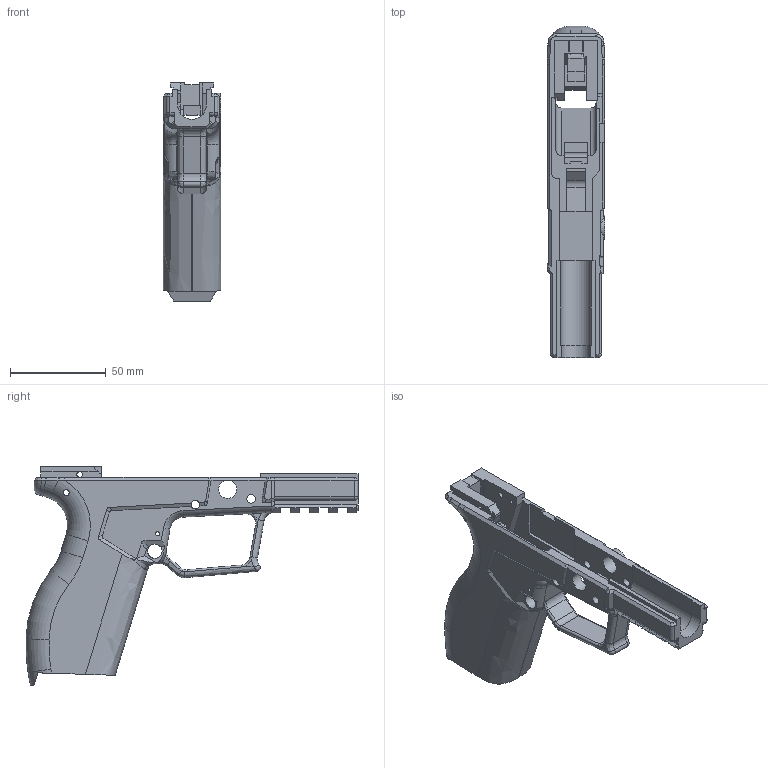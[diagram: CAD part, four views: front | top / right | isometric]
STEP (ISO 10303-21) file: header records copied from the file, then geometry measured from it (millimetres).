
FILE_DESCRIPTION(/* description */ (''),/* implementation_level */ '2;1');
FILE_NAME(/* name */ 'C:/AWCY/XD_Proj/XD_ServiceSize_RC031322.step',/* time_stamp */ '2022-03-13T19:20:34-04:00',/* author */ (''),/* organization */ (''),/* preprocessor_version */ 'ST-DEVELOPER v18.1',/* originating_system */ 'Autodesk Translation Framework v10.13.0.1454',/* authorisation */ '');
FILE_SCHEMA (('AUTOMOTIVE_DESIGN { 1 0 10303 214 3 1 1 }'));
Length unit declared in the file: millimetre
Products named in the file (1): XD_ServiceSize
Bounding box: 30.25 x 173.2 x 113.92 mm (x, y, z)
Volume: 99386.8 mm3; surface area: 47064 mm2
Topology: 1 solids, 1 shells, 382 faces, 1100 edges, 699 vertices
Faces by surface type: plane 227, cylinder 76, bspline 50, torus 22, cone 5, sphere 2
Full cylindrical faces by diameter (mm): 2 x1, 2.15 x2, 3 x2, 3.15 x2, 4.5 x4, 7.5 x1, 9.5 x2
Entity records: 15212 total; most frequent: CARTESIAN_POINT 5355, ORIENTED_EDGE 2196, DIRECTION 1868, EDGE_CURVE 1098, LINE 726, VECTOR 726, VERTEX_POINT 699, AXIS2_PLACEMENT_3D 571
